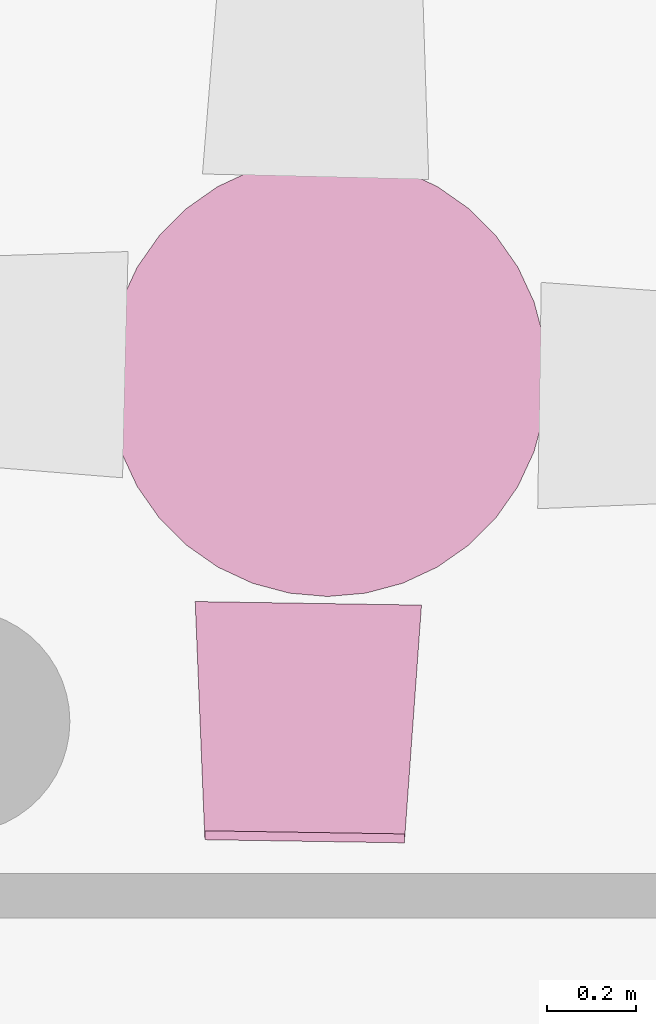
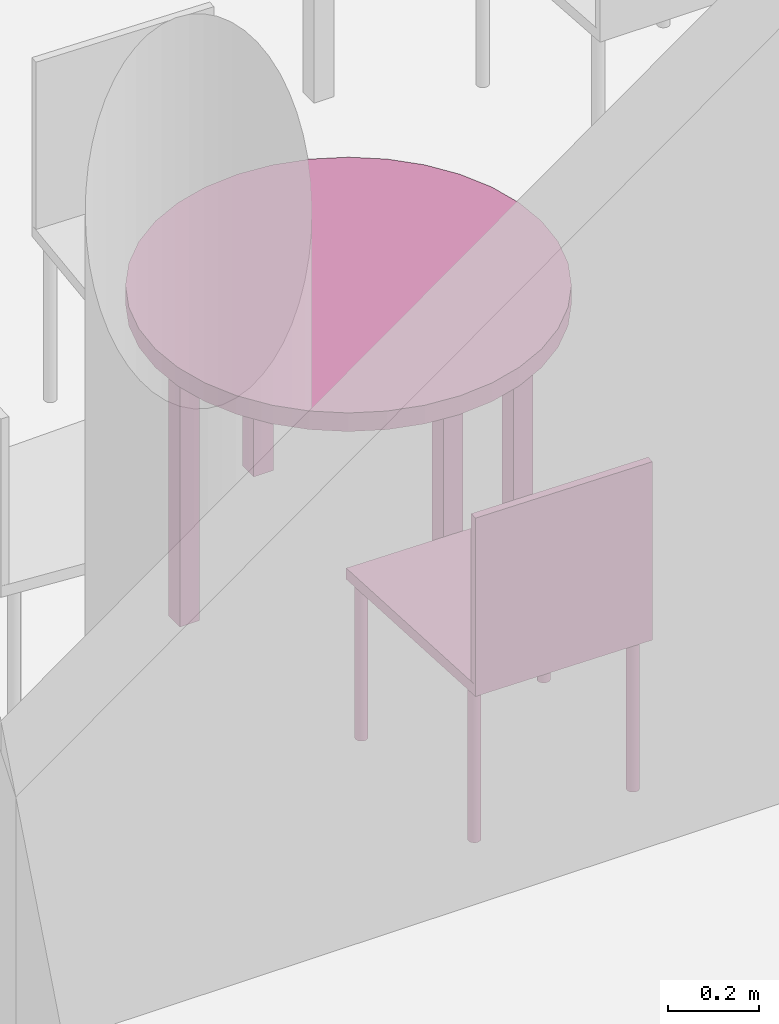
"""IFC4 building model written with IfcOpenShell, lengths in metres."""

from ifc_helpers import new_model, entity, si_unit, converted_unit, derived_unit, frame, origin, place, context, subcontext, project, spatial, faceted_brep, element, save


model = new_model("IFC4")

# Units and contexts
model_context = context("Model", 3, precision=1e-05, world=origin())
body_context = subcontext(model_context, "Body", "Model", "MODEL_VIEW")
ifc_project = project(units=[si_unit("LENGTHUNIT", "METRE"), si_unit("AREAUNIT", "SQUARE_METRE"), si_unit("VOLUMEUNIT", "CUBIC_METRE"), si_unit("MASSUNIT", "GRAM", prefix="KILO"), converted_unit("PLANEANGLEUNIT", "DEGREE", entity("IfcPlaneAngleMeasure", 0.0174532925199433), si_unit("PLANEANGLEUNIT", "RADIAN"), dimensions=[0, 0, 0, 0, 0, 0, 0]), derived_unit("THERMALTRANSMITTANCEUNIT", [(si_unit("POWERUNIT", "WATT"), 1), (si_unit("THERMODYNAMICTEMPERATUREUNIT", "KELVIN"), -1), (si_unit("LENGTHUNIT", "METRE"), -2)]), derived_unit("VOLUMETRICFLOWRATEUNIT", [(si_unit("LENGTHUNIT", "METRE"), 3), (converted_unit("TIMEUNIT", "hour", entity("IfcTimeMeasure", 3600.0), si_unit("TIMEUNIT", "SECOND"), dimensions=[0, 0, 1, 0, 0, 0, 0]), -1), (si_unit("LENGTHUNIT", "METRE"), -1)])], contexts=[model_context])

# Building, storeys
building_placement = place(None, origin())
building = spatial("IfcBuilding", under=ifc_project, at=building_placement, Name="HABITATGE PLURIFAMILIAR", CompositionType="ELEMENT")
storey_1_placement = place(building_placement, frame((0.0, 0.0, 6.25)))
storey_1 = spatial("IfcBuildingStorey", under=building, at=storey_1_placement, Name="PLANTA PRIMERA", CompositionType="ELEMENT", Elevation=6.25)
storey_2_placement = place(storey_1_placement, frame((0.0, 0.0, 3.35)))
storey_2 = spatial("IfcBuildingStorey", under=storey_1, at=storey_2_placement, Name="NOU", CompositionType="PARTIAL")

# Furniture
furniture_1_placement = place(storey_2_placement, frame((401.392028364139, 24.1391758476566, -3.3)))
element("IfcFurniture", 1, at=furniture_1_placement, inside=storey_2, Name="Taula D100_P1", context=body_context, shape_type="Brep", body=[
    faceted_brep([(0.983247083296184, 0.491623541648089, 0.7), (0.97577821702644, 0.576993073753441, 0.7), (0.953598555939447, 0.659768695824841, 0.7), (0.917382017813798, 0.737435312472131, 0.7), (0.868229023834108, 0.807633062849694, 0.7), (0.807633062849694, 0.868229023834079, 0.7), (0.737435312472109, 0.917382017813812, 0.7), (0.659768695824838, 0.953598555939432, 0.7), (0.576993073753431, 0.975778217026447, 0.7), (0.491623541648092, 0.983247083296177, 0.7), (0.406254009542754, 0.975778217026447, 0.7), (0.323478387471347, 0.953598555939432, 0.7), (0.245811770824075, 0.917382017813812, 0.7), (0.17561402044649, 0.868229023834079, 0.7), (0.115018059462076, 0.807633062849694, 0.7), (0.0658650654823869, 0.737435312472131, 0.7), (0.0296485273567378, 0.659768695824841, 0.7), (0.00746886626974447, 0.576993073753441, 0.7), (0.0, 0.491623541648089, 0.7), (0.00746886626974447, 0.406254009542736, 0.7), (0.0296485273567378, 0.323478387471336, 0.7), (0.0658650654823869, 0.245811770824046, 0.7), (0.115018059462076, 0.175614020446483, 0.7), (0.17561402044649, 0.115018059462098, 0.7), (0.245811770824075, 0.065865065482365, 0.7), (0.323478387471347, 0.029648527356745, 0.7), (0.406254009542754, 0.00746886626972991, 0.7), (0.491623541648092, 0.0, 0.7), (0.576993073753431, 0.00746886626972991, 0.7), (0.659768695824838, 0.029648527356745, 0.7), (0.737435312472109, 0.065865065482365, 0.7), (0.807633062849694, 0.115018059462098, 0.7), (0.868229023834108, 0.175614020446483, 0.7), (0.917382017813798, 0.245811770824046, 0.7), (0.953598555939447, 0.323478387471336, 0.7), (0.97577821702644, 0.406254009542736, 0.7), (0.983247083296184, 0.491623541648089, 0.75), (0.97577821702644, 0.406254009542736, 0.75), (0.953598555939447, 0.323478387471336, 0.75), (0.917382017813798, 0.245811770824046, 0.75), (0.868229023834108, 0.175614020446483, 0.75), (0.807633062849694, 0.115018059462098, 0.75), (0.737435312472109, 0.065865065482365, 0.75), (0.659768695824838, 0.029648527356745, 0.75), (0.576993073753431, 0.00746886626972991, 0.75), (0.491623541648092, 0.0, 0.75), (0.406254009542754, 0.00746886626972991, 0.75), (0.323478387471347, 0.029648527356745, 0.75), (0.245811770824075, 0.065865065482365, 0.75), (0.17561402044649, 0.115018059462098, 0.75), (0.115018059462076, 0.175614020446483, 0.75), (0.0658650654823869, 0.245811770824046, 0.75), (0.0296485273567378, 0.323478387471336, 0.75), (0.00746886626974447, 0.406254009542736, 0.75), (0.0, 0.491623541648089, 0.75), (0.00746886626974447, 0.576993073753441, 0.75), (0.0296485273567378, 0.659768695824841, 0.75), (0.0658650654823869, 0.737435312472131, 0.75), (0.115018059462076, 0.807633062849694, 0.75), (0.17561402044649, 0.868229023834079, 0.75), (0.245811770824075, 0.917382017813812, 0.75), (0.323478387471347, 0.953598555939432, 0.75), (0.406254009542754, 0.975778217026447, 0.75), (0.491623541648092, 0.983247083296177, 0.75), (0.576993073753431, 0.975778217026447, 0.75), (0.659768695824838, 0.953598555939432, 0.75), (0.737435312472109, 0.917382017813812, 0.75), (0.807633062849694, 0.868229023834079, 0.75), (0.868229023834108, 0.807633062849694, 0.75), (0.917382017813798, 0.737435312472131, 0.75), (0.953598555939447, 0.659768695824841, 0.75), (0.97577821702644, 0.576993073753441, 0.75)], [[[0, 1, 2, 3, 4, 5, 6, 7, 8, 9, 10, 11, 12, 13, 14, 15, 16, 17, 18, 19, 20, 21, 22, 23, 24, 25, 26, 27, 28, 29, 30, 31, 32, 33, 34, 35]], [[36, 37, 38, 39, 40, 41, 42, 43, 44, 45, 46, 47, 48, 49, 50, 51, 52, 53, 54, 55, 56, 57, 58, 59, 60, 61, 62, 63, 64, 65, 66, 67, 68, 69, 70, 71]], [[1, 0, 36, 71]], [[2, 1, 71, 70]], [[3, 2, 70, 69]], [[4, 3, 69, 68]], [[5, 4, 68, 67]], [[6, 5, 67, 66]], [[7, 6, 66, 65]], [[8, 7, 65, 64]], [[9, 8, 64, 63]], [[10, 9, 63, 62]], [[11, 10, 62, 61]], [[12, 11, 61, 60]], [[13, 12, 60, 59]], [[14, 13, 59, 58]], [[15, 14, 58, 57]], [[16, 15, 57, 56]], [[17, 16, 56, 55]], [[18, 17, 55, 54]], [[19, 18, 54, 53]], [[20, 19, 53, 52]], [[21, 20, 52, 51]], [[22, 21, 51, 50]], [[23, 22, 50, 49]], [[24, 23, 49, 48]], [[25, 24, 48, 47]], [[26, 25, 47, 46]], [[27, 26, 46, 45]], [[28, 27, 45, 44]], [[29, 28, 44, 43]], [[30, 29, 43, 42]], [[31, 30, 42, 41]], [[32, 31, 41, 40]], [[33, 32, 40, 39]], [[34, 33, 39, 38]], [[35, 34, 38, 37]], [[0, 35, 37, 36]]], orient=[[False], [False], [False], [False], [False], [False], [False], [False], [False], [False], [False], [False], [False], [False], [False], [False], [False], [False], [False], [False], [False], [False], [False], [False], [False], [False], [False], [False], [False], [False], [False], [False], [False], [False], [False], [False], [False], [False]]),
    faceted_brep([(0.477496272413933, 0.934826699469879, 0.0), (0.477496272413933, 0.884826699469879, 0.0), (0.527496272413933, 0.884826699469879, 0.0), (0.527496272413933, 0.934826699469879, 0.0), (0.477496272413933, 0.884826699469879, 0.7), (0.477496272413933, 0.934826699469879, 0.7), (0.527496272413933, 0.934826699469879, 0.7), (0.527496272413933, 0.884826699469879, 0.7)], [[[0, 1, 2, 3]], [[4, 5, 6, 7]], [[1, 0, 5, 4]], [[2, 1, 4, 7]], [[3, 2, 7, 6]], [[0, 3, 6, 5]]], orient=[[False], [False], [False], [False], [False], [False]]),
    faceted_brep([(0.0479623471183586, 0.516623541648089, 0.0), (0.0479623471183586, 0.466623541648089, 0.0), (0.0979623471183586, 0.466623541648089, 0.0), (0.0979623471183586, 0.516623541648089, 0.0), (0.0479623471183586, 0.466623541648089, 0.7), (0.0479623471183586, 0.516623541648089, 0.7), (0.0979623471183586, 0.516623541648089, 0.7), (0.0979623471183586, 0.466623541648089, 0.7)], [[[0, 1, 2, 3]], [[4, 5, 6, 7]], [[1, 0, 5, 4]], [[2, 1, 4, 7]], [[3, 2, 7, 6]], [[0, 3, 6, 5]]], orient=[[False], [False], [False], [False], [False], [False]]),
    faceted_brep([(0.884926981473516, 0.496029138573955, 0.0), (0.884926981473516, 0.446029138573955, 0.0), (0.934926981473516, 0.446029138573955, 0.0), (0.934926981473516, 0.496029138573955, 0.0), (0.884926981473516, 0.446029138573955, 0.7), (0.884926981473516, 0.496029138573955, 0.7), (0.934926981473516, 0.496029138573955, 0.7), (0.934926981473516, 0.446029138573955, 0.7)], [[[0, 1, 2, 3]], [[4, 5, 6, 7]], [[1, 0, 5, 4]], [[2, 1, 4, 7]], [[3, 2, 7, 6]], [[0, 3, 6, 5]]], orient=[[False], [False], [False], [False], [False], [False]]),
    faceted_brep([(0.477496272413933, 0.0980619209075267, 0.0), (0.477496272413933, 0.0480619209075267, 0.0), (0.527496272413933, 0.0480619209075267, 0.0), (0.527496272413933, 0.0980619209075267, 0.0), (0.477496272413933, 0.0480619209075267, 0.7), (0.477496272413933, 0.0980619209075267, 0.7), (0.527496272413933, 0.0980619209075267, 0.7), (0.527496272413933, 0.0480619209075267, 0.7)], [[[0, 1, 2, 3]], [[4, 5, 6, 7]], [[1, 0, 5, 4]], [[2, 1, 4, 7]], [[3, 2, 7, 6]], [[0, 3, 6, 5]]], orient=[[False], [False], [False], [False], [False], [False]]),
])
furniture_2_placement = place(storey_2_placement, frame((401.587433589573, 23.5878471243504, -3.35114412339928)))
element("IfcFurniture", 2, at=furniture_2_placement, inside=storey_2, Name="Cadira confient_P1", context=body_context, shape_type="Brep", body=[
    faceted_brep([(0.00889284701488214, 0.514862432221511, 0.0), (0.00906767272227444, 0.512264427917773, 0.0), (0.00969098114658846, 0.50973625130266, 0.0), (0.0107438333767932, 0.507354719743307, 0.0), (0.0121942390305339, 0.505192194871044, 0.0), (0.0139981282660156, 0.503314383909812, 0.0), (0.0161006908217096, 0.501778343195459, 0.0), (0.0184380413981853, 0.500630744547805, 0.0), (0.0209391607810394, 0.499906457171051, 0.0), (0.0235280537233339, 0.499627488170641, 0.0), (0.0261260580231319, 0.499802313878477, 0.0), (0.0286542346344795, 0.500425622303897, 0.0), (0.0310357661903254, 0.501478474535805, 0.0), (0.0331982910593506, 0.502928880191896, 0.0), (0.0350761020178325, 0.504732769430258, 0.0), (0.0366121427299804, 0.50683533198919, 0.0), (0.0377597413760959, 0.509172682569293, 0.0), (0.0384840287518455, 0.511673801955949, 0.0), (0.0387629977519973, 0.514262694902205, 0.0), (0.038588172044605, 0.51686069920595, 0.0), (0.037964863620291, 0.519388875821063, 0.0), (0.0369120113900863, 0.521770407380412, 0.0), (0.0354616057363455, 0.523932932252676, 0.0), (0.0336577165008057, 0.525810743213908, 0.0), (0.0315551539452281, 0.52734678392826, 0.0), (0.0292178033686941, 0.528494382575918, 0.0), (0.0267166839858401, 0.529218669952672, 0.0), (0.0241277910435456, 0.529497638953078, 0.0), (0.0215297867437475, 0.529322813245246, 0.0), (0.0190016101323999, 0.528699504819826, 0.0), (0.0166200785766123, 0.527646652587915, 0.0), (0.0144575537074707, 0.526196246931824, 0.0), (0.012579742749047, 0.524392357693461, 0.0), (0.011043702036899, 0.522289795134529, 0.0), (0.00989610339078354, 0.51995244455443, 0.0), (0.00917181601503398, 0.517451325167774, 0.0), (0.00889284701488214, 0.514862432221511, 0.448281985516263), (0.00917181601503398, 0.517451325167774, 0.448281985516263), (0.00989610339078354, 0.51995244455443, 0.448281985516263), (0.011043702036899, 0.522289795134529, 0.448281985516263), (0.012579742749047, 0.524392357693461, 0.448281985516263), (0.0144575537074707, 0.526196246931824, 0.448281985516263), (0.0166200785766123, 0.527646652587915, 0.448281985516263), (0.0190016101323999, 0.528699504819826, 0.448281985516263), (0.0215297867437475, 0.529322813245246, 0.448281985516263), (0.0241277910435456, 0.529497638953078, 0.448281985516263), (0.0267166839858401, 0.529218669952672, 0.448281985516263), (0.0292178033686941, 0.528494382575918, 0.448281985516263), (0.0315551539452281, 0.52734678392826, 0.448281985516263), (0.0336577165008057, 0.525810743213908, 0.448281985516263), (0.0354616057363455, 0.523932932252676, 0.448281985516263), (0.0369120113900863, 0.521770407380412, 0.448281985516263), (0.037964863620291, 0.519388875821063, 0.448281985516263), (0.038588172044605, 0.51686069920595, 0.448281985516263), (0.0387629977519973, 0.514262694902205, 0.448281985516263), (0.0384840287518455, 0.511673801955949, 0.448281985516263), (0.0377597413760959, 0.509172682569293, 0.448281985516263), (0.0366121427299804, 0.50683533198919, 0.448281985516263), (0.0350761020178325, 0.504732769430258, 0.448281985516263), (0.0331982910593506, 0.502928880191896, 0.448281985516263), (0.0310357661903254, 0.501478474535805, 0.448281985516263), (0.0286542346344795, 0.500425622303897, 0.448281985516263), (0.0261260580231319, 0.499802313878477, 0.448281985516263), (0.0235280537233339, 0.499627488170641, 0.448281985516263), (0.0209391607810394, 0.499906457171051, 0.448281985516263), (0.0184380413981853, 0.500630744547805, 0.448281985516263), (0.0161006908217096, 0.501778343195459, 0.448281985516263), (0.0139981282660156, 0.503314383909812, 0.448281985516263), (0.0121942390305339, 0.505192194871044, 0.448281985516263), (0.0107438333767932, 0.507354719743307, 0.448281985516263), (0.00969098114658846, 0.50973625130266, 0.448281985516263), (0.00906767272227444, 0.512264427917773, 0.448281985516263)], [[[0, 1, 2, 3, 4, 5, 6, 7, 8, 9, 10, 11, 12, 13, 14, 15, 16, 17, 18, 19, 20, 21, 22, 23, 24, 25, 26, 27, 28, 29, 30, 31, 32, 33, 34, 35]], [[36, 37, 38, 39, 40, 41, 42, 43, 44, 45, 46, 47, 48, 49, 50, 51, 52, 53, 54, 55, 56, 57, 58, 59, 60, 61, 62, 63, 64, 65, 66, 67, 68, 69, 70, 71]], [[1, 0, 36, 71]], [[2, 1, 71, 70]], [[3, 2, 70, 69]], [[4, 3, 69, 68]], [[5, 4, 68, 67]], [[6, 5, 67, 66]], [[7, 6, 66, 65]], [[8, 7, 65, 64]], [[9, 8, 64, 63]], [[10, 9, 63, 62]], [[11, 10, 62, 61]], [[12, 11, 61, 60]], [[13, 12, 60, 59]], [[14, 13, 59, 58]], [[15, 14, 58, 57]], [[16, 15, 57, 56]], [[17, 16, 56, 55]], [[18, 17, 55, 54]], [[19, 18, 54, 53]], [[20, 19, 53, 52]], [[21, 20, 52, 51]], [[22, 21, 51, 50]], [[23, 22, 50, 49]], [[24, 23, 49, 48]], [[25, 24, 48, 47]], [[26, 25, 47, 46]], [[27, 26, 46, 45]], [[28, 27, 45, 44]], [[29, 28, 44, 43]], [[30, 29, 43, 42]], [[31, 30, 42, 41]], [[32, 31, 41, 40]], [[33, 32, 40, 39]], [[34, 33, 39, 38]], [[35, 34, 38, 37]], [[0, 35, 37, 36]]], orient=[[False], [False], [False], [False], [False], [False], [False], [False], [False], [False], [False], [False], [False], [False], [False], [False], [False], [False], [False], [False], [False], [False], [False], [False], [False], [False], [False], [False], [False], [False], [False], [False], [False], [False], [False], [False], [False], [False]]),
    faceted_brep([(0.0292533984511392, 0.0520778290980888, 0.0), (0.0294282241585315, 0.0494798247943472, 0.0), (0.0300515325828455, 0.0469516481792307, 0.0), (0.0311043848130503, 0.0445701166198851, 0.0), (0.0325547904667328, 0.0424075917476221, 0.0), (0.0343586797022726, 0.0405297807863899, 0.0), (0.0364612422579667, 0.0389937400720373, 0.0), (0.0387985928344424, 0.0378461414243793, 0.0), (0.0412997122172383, 0.0371218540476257, 0.0), (0.043888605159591, 0.0368428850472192, 0.0), (0.046486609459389, 0.037017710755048, 0.0), (0.0490147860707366, 0.0376410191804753, 0.0), (0.0513963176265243, 0.0386938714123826, 0.0), (0.0535588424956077, 0.0401442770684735, 0.0), (0.0554366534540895, 0.0419481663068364, 0.0), (0.0569726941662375, 0.0440507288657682, 0.0), (0.058120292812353, 0.0463880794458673, 0.0), (0.0588445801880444, 0.0488891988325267, 0.0), (0.0591235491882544, 0.0514780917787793, 0.0), (0.0589487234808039, 0.0540760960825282, 0.0), (0.0583254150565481, 0.0566042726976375, 0.0), (0.0572725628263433, 0.0589858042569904, 0.0), (0.0558221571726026, 0.0611483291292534, 0.0), (0.0540182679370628, 0.0630261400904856, 0.0), (0.051915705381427, 0.0645621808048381, 0.0), (0.0495783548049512, 0.0657097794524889, 0.0), (0.0470772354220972, 0.0664340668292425, 0.0), (0.0444883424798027, 0.0667130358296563, 0.0), (0.0418903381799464, 0.0665382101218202, 0.0), (0.039362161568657, 0.0659149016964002, 0.0), (0.0369806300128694, 0.0648620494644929, 0.0), (0.0348181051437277, 0.063411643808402, 0.0), (0.0329402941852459, 0.0616077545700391, 0.0), (0.0314042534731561, 0.0595051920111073, 0.0), (0.0302566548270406, 0.0571678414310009, 0.0), (0.0295323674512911, 0.0546667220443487, 0.0), (0.0292533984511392, 0.0520778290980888, 0.448281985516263), (0.0295323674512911, 0.0546667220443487, 0.448281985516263), (0.0302566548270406, 0.0571678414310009, 0.448281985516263), (0.0314042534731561, 0.0595051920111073, 0.448281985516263), (0.0329402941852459, 0.0616077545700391, 0.448281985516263), (0.0348181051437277, 0.063411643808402, 0.448281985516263), (0.0369806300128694, 0.0648620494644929, 0.448281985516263), (0.039362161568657, 0.0659149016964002, 0.448281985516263), (0.0418903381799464, 0.0665382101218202, 0.448281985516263), (0.0444883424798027, 0.0667130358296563, 0.448281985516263), (0.0470772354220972, 0.0664340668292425, 0.448281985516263), (0.0495783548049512, 0.0657097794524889, 0.448281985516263), (0.051915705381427, 0.0645621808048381, 0.448281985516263), (0.0540182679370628, 0.0630261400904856, 0.448281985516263), (0.0558221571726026, 0.0611483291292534, 0.448281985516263), (0.0572725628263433, 0.0589858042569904, 0.448281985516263), (0.0583254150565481, 0.0566042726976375, 0.448281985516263), (0.0589487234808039, 0.0540760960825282, 0.448281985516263), (0.0591235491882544, 0.0514780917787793, 0.448281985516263), (0.0588445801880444, 0.0488891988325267, 0.448281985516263), (0.058120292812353, 0.0463880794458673, 0.448281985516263), (0.0569726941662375, 0.0440507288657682, 0.448281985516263), (0.0554366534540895, 0.0419481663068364, 0.448281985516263), (0.0535588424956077, 0.0401442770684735, 0.448281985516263), (0.0513963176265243, 0.0386938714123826, 0.448281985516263), (0.0490147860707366, 0.0376410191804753, 0.448281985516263), (0.046486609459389, 0.037017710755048, 0.448281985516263), (0.043888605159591, 0.0368428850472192, 0.448281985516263), (0.0412997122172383, 0.0371218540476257, 0.448281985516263), (0.0387985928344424, 0.0378461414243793, 0.448281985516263), (0.0364612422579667, 0.0389937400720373, 0.448281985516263), (0.0343586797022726, 0.0405297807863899, 0.448281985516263), (0.0325547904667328, 0.0424075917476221, 0.448281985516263), (0.0311043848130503, 0.0445701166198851, 0.448281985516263), (0.0300515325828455, 0.0469516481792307, 0.448281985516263), (0.0294282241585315, 0.0494798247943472, 0.448281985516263)], [[[0, 1, 2, 3, 4, 5, 6, 7, 8, 9, 10, 11, 12, 13, 14, 15, 16, 17, 18, 19, 20, 21, 22, 23, 24, 25, 26, 27, 28, 29, 30, 31, 32, 33, 34, 35]], [[36, 37, 38, 39, 40, 41, 42, 43, 44, 45, 46, 47, 48, 49, 50, 51, 52, 53, 54, 55, 56, 57, 58, 59, 60, 61, 62, 63, 64, 65, 66, 67, 68, 69, 70, 71]], [[1, 0, 36, 71]], [[2, 1, 71, 70]], [[3, 2, 70, 69]], [[4, 3, 69, 68]], [[5, 4, 68, 67]], [[6, 5, 67, 66]], [[7, 6, 66, 65]], [[8, 7, 65, 64]], [[9, 8, 64, 63]], [[10, 9, 63, 62]], [[11, 10, 62, 61]], [[12, 11, 61, 60]], [[13, 12, 60, 59]], [[14, 13, 59, 58]], [[15, 14, 58, 57]], [[16, 15, 57, 56]], [[17, 16, 56, 55]], [[18, 17, 55, 54]], [[19, 18, 54, 53]], [[20, 19, 53, 52]], [[21, 20, 52, 51]], [[22, 21, 51, 50]], [[23, 22, 50, 49]], [[24, 23, 49, 48]], [[25, 24, 48, 47]], [[26, 25, 47, 46]], [[27, 26, 46, 45]], [[28, 27, 45, 44]], [[29, 28, 44, 43]], [[30, 29, 43, 42]], [[31, 30, 42, 41]], [[32, 31, 41, 40]], [[33, 32, 40, 39]], [[34, 33, 39, 38]], [[35, 34, 38, 37]], [[0, 35, 37, 36]]], orient=[[False], [False], [False], [False], [False], [False], [False], [False], [False], [False], [False], [False], [False], [False], [False], [False], [False], [False], [False], [False], [False], [False], [False], [False], [False], [False], [False], [False], [False], [False], [False], [False], [False], [False], [False], [False], [False], [False]]),
    faceted_brep([(0.468835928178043, 0.507626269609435, 0.0), (0.469010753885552, 0.505028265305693, 0.0), (0.469634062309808, 0.50250008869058, 0.0), (0.470686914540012, 0.500118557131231, 0.0), (0.472137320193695, 0.497956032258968, 0.0), (0.473941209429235, 0.496078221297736, 0.0), (0.476043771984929, 0.494542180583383, 0.0), (0.478381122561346, 0.493394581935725, 0.0), (0.4808822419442, 0.492670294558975, 0.0), (0.483471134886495, 0.492391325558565, 0.0), (0.486069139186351, 0.492566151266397, 0.0), (0.488597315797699, 0.493189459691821, 0.0), (0.490978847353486, 0.494242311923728, 0.0), (0.49314137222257, 0.495692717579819, 0.0), (0.495019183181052, 0.497496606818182, 0.0), (0.4965552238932, 0.499599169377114, 0.0), (0.497702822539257, 0.501936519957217, 0.0), (0.498427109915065, 0.504437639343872, 0.0), (0.498706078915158, 0.507026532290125, 0.0), (0.498531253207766, 0.509624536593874, 0.0), (0.49790794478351, 0.512152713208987, 0.0), (0.496855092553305, 0.514534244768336, 0.0), (0.495404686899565, 0.516696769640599, 0.0), (0.493600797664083, 0.518574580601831, 0.0), (0.491498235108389, 0.520110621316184, 0.0), (0.489160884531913, 0.521258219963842, 0.0), (0.486659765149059, 0.521982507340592, 0.0), (0.484070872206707, 0.522261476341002, 0.0), (0.481472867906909, 0.52208665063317, 0.0), (0.478944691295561, 0.521463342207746, 0.0), (0.476563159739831, 0.520410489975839, 0.0), (0.474400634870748, 0.518960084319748, 0.0), (0.472522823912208, 0.517156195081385, 0.0), (0.470986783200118, 0.515053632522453, 0.0), (0.469839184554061, 0.51271628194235, 0.0), (0.469114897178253, 0.510215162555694, 0.0), (0.468835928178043, 0.507626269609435, 0.448281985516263), (0.469114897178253, 0.510215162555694, 0.448281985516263), (0.469839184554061, 0.51271628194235, 0.448281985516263), (0.470986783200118, 0.515053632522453, 0.448281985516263), (0.472522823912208, 0.517156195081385, 0.448281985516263), (0.474400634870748, 0.518960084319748, 0.448281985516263), (0.476563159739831, 0.520410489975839, 0.448281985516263), (0.478944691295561, 0.521463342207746, 0.448281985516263), (0.481472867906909, 0.52208665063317, 0.448281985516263), (0.484070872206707, 0.522261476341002, 0.448281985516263), (0.486659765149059, 0.521982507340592, 0.448281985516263), (0.489160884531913, 0.521258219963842, 0.448281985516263), (0.491498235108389, 0.520110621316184, 0.448281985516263), (0.493600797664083, 0.518574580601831, 0.448281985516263), (0.495404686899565, 0.516696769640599, 0.448281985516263), (0.496855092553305, 0.514534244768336, 0.448281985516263), (0.49790794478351, 0.512152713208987, 0.448281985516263), (0.498531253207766, 0.509624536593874, 0.448281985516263), (0.498706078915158, 0.507026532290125, 0.448281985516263), (0.498427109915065, 0.504437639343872, 0.448281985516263), (0.497702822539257, 0.501936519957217, 0.448281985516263), (0.4965552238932, 0.499599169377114, 0.448281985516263), (0.495019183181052, 0.497496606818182, 0.448281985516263), (0.49314137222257, 0.495692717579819, 0.448281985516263), (0.490978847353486, 0.494242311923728, 0.448281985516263), (0.488597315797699, 0.493189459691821, 0.448281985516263), (0.486069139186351, 0.492566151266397, 0.448281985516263), (0.483471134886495, 0.492391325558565, 0.448281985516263), (0.4808822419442, 0.492670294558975, 0.448281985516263), (0.478381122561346, 0.493394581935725, 0.448281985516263), (0.476043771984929, 0.494542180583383, 0.448281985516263), (0.473941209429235, 0.496078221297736, 0.448281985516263), (0.472137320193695, 0.497956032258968, 0.448281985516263), (0.470686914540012, 0.500118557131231, 0.448281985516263), (0.469634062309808, 0.50250008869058, 0.448281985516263), (0.469010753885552, 0.505028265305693, 0.448281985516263)], [[[0, 1, 2, 3, 4, 5, 6, 7, 8, 9, 10, 11, 12, 13, 14, 15, 16, 17, 18, 19, 20, 21, 22, 23, 24, 25, 26, 27, 28, 29, 30, 31, 32, 33, 34, 35]], [[36, 37, 38, 39, 40, 41, 42, 43, 44, 45, 46, 47, 48, 49, 50, 51, 52, 53, 54, 55, 56, 57, 58, 59, 60, 61, 62, 63, 64, 65, 66, 67, 68, 69, 70, 71]], [[1, 0, 36, 71]], [[2, 1, 71, 70]], [[3, 2, 70, 69]], [[4, 3, 69, 68]], [[5, 4, 68, 67]], [[6, 5, 67, 66]], [[7, 6, 66, 65]], [[8, 7, 65, 64]], [[9, 8, 64, 63]], [[10, 9, 63, 62]], [[11, 10, 62, 61]], [[12, 11, 61, 60]], [[13, 12, 60, 59]], [[14, 13, 59, 58]], [[15, 14, 58, 57]], [[16, 15, 57, 56]], [[17, 16, 56, 55]], [[18, 17, 55, 54]], [[19, 18, 54, 53]], [[20, 19, 53, 52]], [[21, 20, 52, 51]], [[22, 21, 51, 50]], [[23, 22, 50, 49]], [[24, 23, 49, 48]], [[25, 24, 48, 47]], [[26, 25, 47, 46]], [[27, 26, 46, 45]], [[28, 27, 45, 44]], [[29, 28, 44, 43]], [[30, 29, 43, 42]], [[31, 30, 42, 41]], [[32, 31, 41, 40]], [[33, 32, 40, 39]], [[34, 33, 39, 38]], [[35, 34, 38, 37]], [[0, 35, 37, 36]]], orient=[[False], [False], [False], [False], [False], [False], [False], [False], [False], [False], [False], [False], [False], [False], [False], [False], [False], [False], [False], [False], [False], [False], [False], [False], [False], [False], [False], [False], [False], [False], [False], [False], [False], [False], [False], [False], [False], [False]]),
    faceted_brep([(0.429203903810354, 0.0457855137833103, 0.0), (0.429378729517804, 0.0431875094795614, 0.0), (0.43000203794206, 0.0406593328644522, 0.0), (0.431054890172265, 0.0382778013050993, 0.0), (0.432505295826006, 0.0361152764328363, 0.0), (0.434309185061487, 0.0342374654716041, 0.0), (0.436411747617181, 0.0327014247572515, 0.0), (0.438749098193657, 0.0315538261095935, 0.0), (0.441250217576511, 0.0308295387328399, 0.0), (0.443839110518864, 0.0305505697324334, 0.0), (0.446437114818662, 0.0307253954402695, 0.0), (0.44896529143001, 0.0313487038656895, 0.0), (0.451346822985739, 0.0324015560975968, 0.0), (0.453509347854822, 0.0338519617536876, 0.0), (0.455387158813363, 0.0356558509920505, 0.0), (0.456923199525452, 0.0377584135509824, 0.0), (0.45807079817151, 0.0400957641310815, 0.0), (0.458795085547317, 0.0425968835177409, 0.0), (0.459074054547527, 0.0451857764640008, 0.0), (0.458899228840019, 0.0477837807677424, 0.0), (0.458275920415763, 0.050311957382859, 0.0), (0.457223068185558, 0.0526934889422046, 0.0), (0.455772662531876, 0.0548560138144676, 0.0), (0.453968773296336, 0.0567338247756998, 0.0), (0.451866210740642, 0.0582698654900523, 0.0), (0.449528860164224, 0.0594174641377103, 0.0), (0.44702774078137, 0.060141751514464, 0.0), (0.444438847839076, 0.0604207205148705, 0.0), (0.441840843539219, 0.0602458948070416, 0.0), (0.439312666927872, 0.0596225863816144, 0.0), (0.436931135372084, 0.0585697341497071, 0.0), (0.434768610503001, 0.0571193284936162, 0.0), (0.432890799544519, 0.0553154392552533, 0.0), (0.431354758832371, 0.0532128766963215, 0.0), (0.430207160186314, 0.050875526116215, 0.0), (0.429482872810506, 0.0483744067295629, 0.0), (0.429203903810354, 0.0457855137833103, 0.448281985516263), (0.429482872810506, 0.0483744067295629, 0.448281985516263), (0.430207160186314, 0.050875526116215, 0.448281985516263), (0.431354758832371, 0.0532128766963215, 0.448281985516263), (0.432890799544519, 0.0553154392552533, 0.448281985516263), (0.434768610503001, 0.0571193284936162, 0.448281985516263), (0.436931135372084, 0.0585697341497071, 0.448281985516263), (0.439312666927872, 0.0596225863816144, 0.448281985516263), (0.441840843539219, 0.0602458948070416, 0.448281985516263), (0.444438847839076, 0.0604207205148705, 0.448281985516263), (0.44702774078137, 0.060141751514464, 0.448281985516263), (0.449528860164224, 0.0594174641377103, 0.448281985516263), (0.451866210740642, 0.0582698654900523, 0.448281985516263), (0.453968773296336, 0.0567338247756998, 0.448281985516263), (0.455772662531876, 0.0548560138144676, 0.448281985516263), (0.457223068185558, 0.0526934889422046, 0.448281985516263), (0.458275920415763, 0.050311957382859, 0.448281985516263), (0.458899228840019, 0.0477837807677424, 0.448281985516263), (0.459074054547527, 0.0451857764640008, 0.448281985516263), (0.458795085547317, 0.0425968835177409, 0.448281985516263), (0.45807079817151, 0.0400957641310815, 0.448281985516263), (0.456923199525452, 0.0377584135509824, 0.448281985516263), (0.455387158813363, 0.0356558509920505, 0.448281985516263), (0.453509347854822, 0.0338519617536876, 0.448281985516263), (0.451346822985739, 0.0324015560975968, 0.448281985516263), (0.44896529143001, 0.0313487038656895, 0.448281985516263), (0.446437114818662, 0.0307253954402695, 0.448281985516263), (0.443839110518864, 0.0305505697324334, 0.448281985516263), (0.441250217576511, 0.0308295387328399, 0.448281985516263), (0.438749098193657, 0.0315538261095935, 0.448281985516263), (0.436411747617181, 0.0327014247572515, 0.448281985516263), (0.434309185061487, 0.0342374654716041, 0.448281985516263), (0.432505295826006, 0.0361152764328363, 0.448281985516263), (0.431054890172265, 0.0382778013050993, 0.448281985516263), (0.43000203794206, 0.0406593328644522, 0.448281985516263), (0.429378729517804, 0.0431875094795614, 0.448281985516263)], [[[0, 1, 2, 3, 4, 5, 6, 7, 8, 9, 10, 11, 12, 13, 14, 15, 16, 17, 18, 19, 20, 21, 22, 23, 24, 25, 26, 27, 28, 29, 30, 31, 32, 33, 34, 35]], [[36, 37, 38, 39, 40, 41, 42, 43, 44, 45, 46, 47, 48, 49, 50, 51, 52, 53, 54, 55, 56, 57, 58, 59, 60, 61, 62, 63, 64, 65, 66, 67, 68, 69, 70, 71]], [[1, 0, 36, 71]], [[2, 1, 71, 70]], [[3, 2, 70, 69]], [[4, 3, 69, 68]], [[5, 4, 68, 67]], [[6, 5, 67, 66]], [[7, 6, 66, 65]], [[8, 7, 65, 64]], [[9, 8, 64, 63]], [[10, 9, 63, 62]], [[11, 10, 62, 61]], [[12, 11, 61, 60]], [[13, 12, 60, 59]], [[14, 13, 59, 58]], [[15, 14, 58, 57]], [[16, 15, 57, 56]], [[17, 16, 56, 55]], [[18, 17, 55, 54]], [[19, 18, 54, 53]], [[20, 19, 53, 52]], [[21, 20, 52, 51]], [[22, 21, 51, 50]], [[23, 22, 50, 49]], [[24, 23, 49, 48]], [[25, 24, 48, 47]], [[26, 25, 47, 46]], [[27, 26, 46, 45]], [[28, 27, 45, 44]], [[29, 28, 44, 43]], [[30, 29, 43, 42]], [[31, 30, 42, 41]], [[32, 31, 41, 40]], [[33, 32, 40, 39]], [[34, 33, 39, 38]], [[35, 34, 38, 37]], [[0, 35, 37, 36]]], orient=[[False], [False], [False], [False], [False], [False], [False], [False], [False], [False], [False], [False], [False], [False], [False], [False], [False], [False], [False], [False], [False], [False], [False], [False], [False], [False], [False], [False], [False], [False], [False], [False], [False], [False], [False], [False], [False], [False]]),
    faceted_brep([(0.468077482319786, 0.0, 0.418281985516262), (0.506452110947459, 0.532069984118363, 0.418281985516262), (0.0, 0.540037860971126, 0.418281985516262), (0.0216179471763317, 0.007024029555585, 0.418281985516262), (0.506452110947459, 0.532069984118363, 0.448281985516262), (0.468077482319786, 0.0, 0.448281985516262), (0.0216179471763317, 0.007024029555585, 0.448281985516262), (0.0, 0.540037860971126, 0.448281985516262)], [[[0, 1, 2, 3]], [[4, 5, 6, 7]], [[1, 0, 5, 4]], [[2, 1, 4, 7]], [[3, 2, 7, 6]], [[0, 3, 6, 5]]], orient=[[False], [False], [False], [False], [False], [False]]),
    faceted_brep([(0.468392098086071, 0.0199975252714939, 0.448281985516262), (0.0219325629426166, 0.0270215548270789, 0.448281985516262), (0.0216179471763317, 0.00702402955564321, 0.448281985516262), (0.468077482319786, 0.0, 0.448281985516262), (0.0219325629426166, 0.0270215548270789, 0.898281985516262), (0.468392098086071, 0.0199975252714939, 0.898281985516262), (0.468077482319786, 0.0, 0.898281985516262), (0.0216179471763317, 0.00702402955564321, 0.898281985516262)], [[[0, 1, 2, 3]], [[4, 5, 6, 7]], [[1, 0, 5, 4]], [[2, 1, 4, 7]], [[3, 2, 7, 6]], [[0, 3, 6, 5]]], orient=[[False], [False], [False], [False], [False], [False]]),
])

save(model, "model.ifc")
